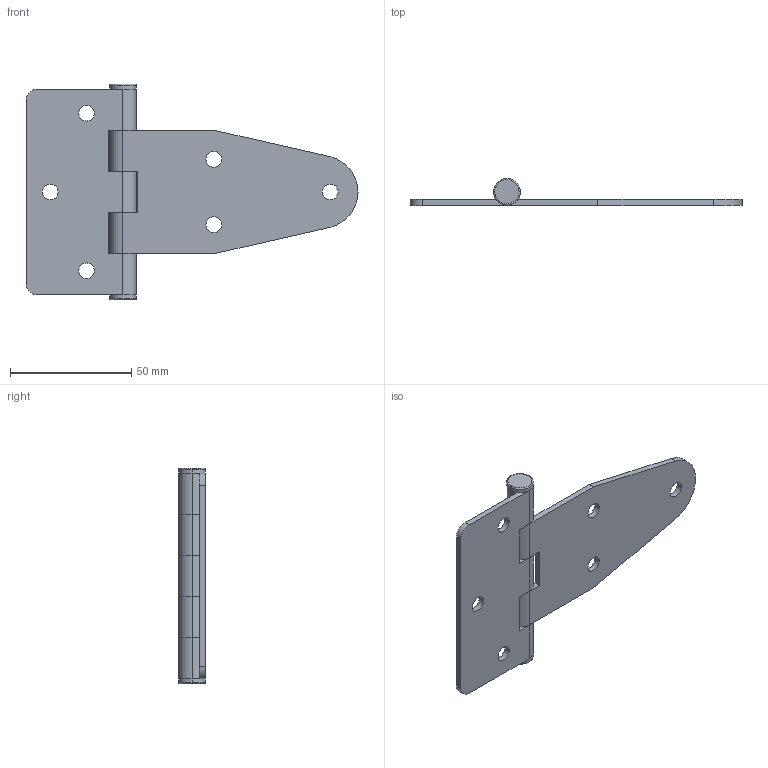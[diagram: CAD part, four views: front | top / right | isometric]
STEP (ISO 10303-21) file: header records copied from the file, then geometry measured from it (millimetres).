
FILE_DESCRIPTION (( 'STEP AP214' ), '1' );
FILE_NAME ('CL1151.STEP', '2023-07-01T08:33:33', ( '' ), ( '' ), 'SwSTEP 2.0', 'SolidWorks 2019', '' );
FILE_SCHEMA (( 'AUTOMOTIVE_DESIGN' ));
Length unit declared in the file: millimetre
Products named in the file (1): CL1151
Bounding box: 137 x 11 x 89 mm (x, y, z)
Volume: 25189.9 mm3; surface area: 21718.4 mm2
Topology: 3 solids, 3 shells, 75 faces, 197 edges, 130 vertices
Faces by surface type: cylinder 47, plane 24, bspline 4
Entity records: 2497 total; most frequent: CARTESIAN_POINT 475, DIRECTION 435, ORIENTED_EDGE 394, EDGE_CURVE 197, AXIS2_PLACEMENT_3D 170, VERTEX_POINT 130, EDGE_LOOP 99, CIRCLE 98
